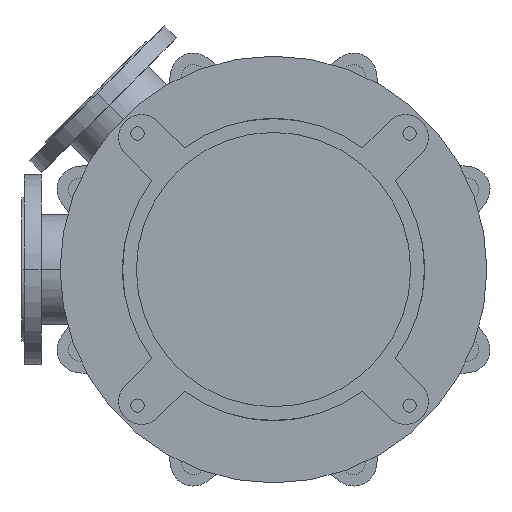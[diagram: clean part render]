
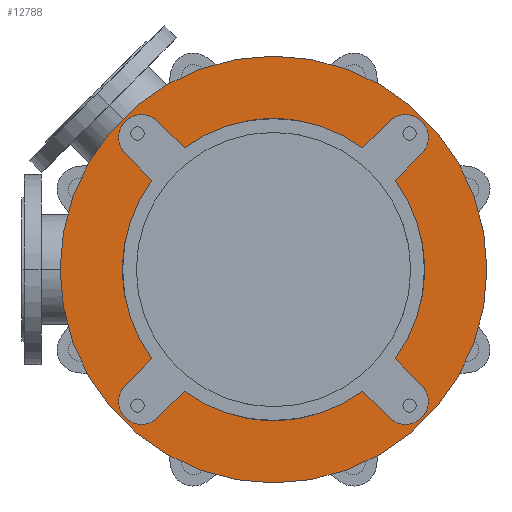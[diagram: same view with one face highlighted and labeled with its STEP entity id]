
A CAD part, front view. The second image highlights one B-rep face of the part: STEP entity #12788.
In plain terms, the highlighted planar face has unit normal (0, -1, 0).
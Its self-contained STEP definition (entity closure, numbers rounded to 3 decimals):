
#2484=CARTESIAN_POINT('',(0.,-25.,0.));
#2485=DIRECTION('',(0.,1.,0.));
#2486=DIRECTION('',(0.592,0.,-0.806));
#2487=AXIS2_PLACEMENT_3D('',#2484,#2485,#2486);
#2502=CARTESIAN_POINT('',(0.,-25.,0.));
#2503=DIRECTION('',(0.,1.,0.));
#2504=DIRECTION('',(0.806,0.,0.592));
#2505=AXIS2_PLACEMENT_3D('',#2502,#2503,#2504);
#2529=CARTESIAN_POINT('',(0.,-25.,0.));
#2530=DIRECTION('',(0.,1.,0.));
#2531=DIRECTION('',(-0.806,0.,-0.592));
#2532=AXIS2_PLACEMENT_3D('',#2529,#2530,#2531);
#2538=CARTESIAN_POINT('',(0.,-25.,0.));
#2539=DIRECTION('',(0.,1.,0.));
#2540=DIRECTION('',(-0.592,0.,0.806));
#2541=AXIS2_PLACEMENT_3D('',#2538,#2539,#2540);
#2716=CARTESIAN_POINT('',(0.,-25.,0.));
#2717=DIRECTION('',(0.,-1.,0.));
#2718=DIRECTION('',(-1.,0.,0.));
#2719=AXIS2_PLACEMENT_3D('',#2716,#2717,#2718);
#2721=CARTESIAN_POINT('',(0.,-25.,0.));
#2722=DIRECTION('',(0.,1.,0.));
#2723=DIRECTION('',(-1.,0.,0.));
#2724=AXIS2_PLACEMENT_3D('',#2721,#2722,#2723);
#2726=CARTESIAN_POINT('',(-173.241,-25.,173.241));
#2727=DIRECTION('',(0.,-1.,0.));
#2728=DIRECTION('',(0.707,0.,0.707));
#2729=AXIS2_PLACEMENT_3D('',#2726,#2727,#2728);
#2731=DIRECTION('',(0.707,0.,-0.707));
#2732=VECTOR('',#2731,49.286);
#2733=CARTESIAN_POINT('',(-194.454,-25.,152.028));
#2734=LINE('',#2733,#2732);
#2735=DIRECTION('',(-0.707,0.,-0.707));
#2736=VECTOR('',#2735,49.286);
#2737=CARTESIAN_POINT('',(-159.604,-25.,-117.178));
#2738=LINE('',#2737,#2736);
#2739=CARTESIAN_POINT('',(-173.241,-25.,-173.241));
#2740=DIRECTION('',(0.,-1.,0.));
#2741=DIRECTION('',(-0.707,0.,0.707));
#2742=AXIS2_PLACEMENT_3D('',#2739,#2740,#2741);
#2744=DIRECTION('',(0.707,0.,0.707));
#2745=VECTOR('',#2744,49.286);
#2746=CARTESIAN_POINT('',(-152.028,-25.,-194.454));
#2747=LINE('',#2746,#2745);
#2748=DIRECTION('',(0.707,0.,-0.707));
#2749=VECTOR('',#2748,49.286);
#2750=CARTESIAN_POINT('',(117.178,-25.,-159.604));
#2751=LINE('',#2750,#2749);
#2752=CARTESIAN_POINT('',(173.241,-25.,-173.241));
#2753=DIRECTION('',(0.,-1.,0.));
#2754=DIRECTION('',(-0.707,0.,-0.707));
#2755=AXIS2_PLACEMENT_3D('',#2752,#2753,#2754);
#2757=DIRECTION('',(-0.707,0.,0.707));
#2758=VECTOR('',#2757,49.286);
#2759=CARTESIAN_POINT('',(194.454,-25.,-152.028));
#2760=LINE('',#2759,#2758);
#2761=DIRECTION('',(0.707,0.,0.707));
#2762=VECTOR('',#2761,49.286);
#2763=CARTESIAN_POINT('',(159.604,-25.,117.178));
#2764=LINE('',#2763,#2762);
#2765=CARTESIAN_POINT('',(173.241,-25.,173.241));
#2766=DIRECTION('',(0.,-1.,0.));
#2767=DIRECTION('',(0.707,0.,-0.707));
#2768=AXIS2_PLACEMENT_3D('',#2765,#2766,#2767);
#2770=DIRECTION('',(-0.707,0.,-0.707));
#2771=VECTOR('',#2770,49.286);
#2772=CARTESIAN_POINT('',(152.028,-25.,194.454));
#2773=LINE('',#2772,#2771);
#2774=DIRECTION('',(-0.707,0.,0.707));
#2775=VECTOR('',#2774,49.286);
#2776=CARTESIAN_POINT('',(-117.178,-25.,159.604));
#2777=LINE('',#2776,#2775);
#8319=CARTESIAN_POINT('',(-280.,-25.,0.));
#8320=CARTESIAN_POINT('',(280.,-25.,0.));
#8321=VERTEX_POINT('',#8319);
#8322=VERTEX_POINT('',#8320);
#8343=CARTESIAN_POINT('',(-194.454,-25.,-152.028));
#8344=CARTESIAN_POINT('',(-152.028,-25.,-194.454));
#8345=VERTEX_POINT('',#8343);
#8346=VERTEX_POINT('',#8344);
#8347=CARTESIAN_POINT('',(-117.178,-25.,-159.604));
#8348=VERTEX_POINT('',#8347);
#8349=CARTESIAN_POINT('',(-159.604,-25.,-117.178));
#8350=VERTEX_POINT('',#8349);
#8359=CARTESIAN_POINT('',(152.028,-25.,-194.454));
#8360=CARTESIAN_POINT('',(194.454,-25.,-152.028));
#8361=VERTEX_POINT('',#8359);
#8362=VERTEX_POINT('',#8360);
#8363=CARTESIAN_POINT('',(159.604,-25.,-117.178));
#8364=VERTEX_POINT('',#8363);
#8365=CARTESIAN_POINT('',(117.178,-25.,-159.604));
#8366=VERTEX_POINT('',#8365);
#8375=CARTESIAN_POINT('',(194.454,-25.,152.028));
#8376=CARTESIAN_POINT('',(152.028,-25.,194.454));
#8377=VERTEX_POINT('',#8375);
#8378=VERTEX_POINT('',#8376);
#8379=CARTESIAN_POINT('',(117.178,-25.,159.604));
#8380=VERTEX_POINT('',#8379);
#8381=CARTESIAN_POINT('',(159.604,-25.,117.178));
#8382=VERTEX_POINT('',#8381);
#8391=CARTESIAN_POINT('',(-152.028,-25.,194.454));
#8392=CARTESIAN_POINT('',(-194.454,-25.,152.028));
#8393=VERTEX_POINT('',#8391);
#8394=VERTEX_POINT('',#8392);
#8395=CARTESIAN_POINT('',(-159.604,-25.,117.178));
#8396=VERTEX_POINT('',#8395);
#8397=CARTESIAN_POINT('',(-117.178,-25.,159.604));
#8398=VERTEX_POINT('',#8397);
#12748=CARTESIAN_POINT('',(0.,-25.,0.));
#12749=DIRECTION('',(0.,-1.,0.));
#12750=DIRECTION('',(-1.,0.,0.));
#12751=AXIS2_PLACEMENT_3D('',#12748,#12749,#12750);
#12752=PLANE('',#12751);
#12754=ORIENTED_EDGE('',*,*,#12753,.F.);
#12756=ORIENTED_EDGE('',*,*,#12755,.T.);
#12757=EDGE_LOOP('',(#12754,#12756));
#12758=FACE_OUTER_BOUND('',#12757,.F.);
#12760=ORIENTED_EDGE('',*,*,#12759,.T.);
#12762=ORIENTED_EDGE('',*,*,#12761,.T.);
#12763=ORIENTED_EDGE('',*,*,#12701,.F.);
#12765=ORIENTED_EDGE('',*,*,#12764,.T.);
#12767=ORIENTED_EDGE('',*,*,#12766,.T.);
#12769=ORIENTED_EDGE('',*,*,#12768,.T.);
#12770=ORIENTED_EDGE('',*,*,#12654,.F.);
#12771=ORIENTED_EDGE('',*,*,#12738,.T.);
#12773=ORIENTED_EDGE('',*,*,#12772,.T.);
#12775=ORIENTED_EDGE('',*,*,#12774,.T.);
#12776=ORIENTED_EDGE('',*,*,#12675,.F.);
#12778=ORIENTED_EDGE('',*,*,#12777,.T.);
#12780=ORIENTED_EDGE('',*,*,#12779,.T.);
#12782=ORIENTED_EDGE('',*,*,#12781,.T.);
#12783=ORIENTED_EDGE('',*,*,#12719,.F.);
#12785=ORIENTED_EDGE('',*,*,#12784,.T.);
#12786=EDGE_LOOP('',(#12760,#12762,#12763,#12765,#12767,#12769,#12770,#12771,
#12773,#12775,#12776,#12778,#12780,#12782,#12783,#12785));
#12787=FACE_BOUND('',#12786,.F.);
#12788=ADVANCED_FACE('',(#12758,#12787),#12752,.T.);
#2488=CIRCLE('',#2487,198.);
#2506=CIRCLE('',#2505,198.);
#2533=CIRCLE('',#2532,198.);
#2542=CIRCLE('',#2541,198.);
#2720=CIRCLE('',#2719,280.);
#2725=CIRCLE('',#2724,280.);
#2730=CIRCLE('',#2729,30.);
#2743=CIRCLE('',#2742,30.);
#2756=CIRCLE('',#2755,30.);
#2769=CIRCLE('',#2768,30.);
#12654=EDGE_CURVE('',#8366,#8348,#2488,.T.);
#12675=EDGE_CURVE('',#8382,#8364,#2506,.T.);
#12701=EDGE_CURVE('',#8350,#8396,#2533,.T.);
#12719=EDGE_CURVE('',#8398,#8380,#2542,.T.);
#12738=EDGE_CURVE('',#8366,#8361,#2751,.T.);
#12753=EDGE_CURVE('',#8321,#8322,#2720,.T.);
#12755=EDGE_CURVE('',#8321,#8322,#2725,.T.);
#12759=EDGE_CURVE('',#8393,#8394,#2730,.T.);
#12761=EDGE_CURVE('',#8394,#8396,#2734,.T.);
#12764=EDGE_CURVE('',#8350,#8345,#2738,.T.);
#12766=EDGE_CURVE('',#8345,#8346,#2743,.T.);
#12768=EDGE_CURVE('',#8346,#8348,#2747,.T.);
#12772=EDGE_CURVE('',#8361,#8362,#2756,.T.);
#12774=EDGE_CURVE('',#8362,#8364,#2760,.T.);
#12777=EDGE_CURVE('',#8382,#8377,#2764,.T.);
#12779=EDGE_CURVE('',#8377,#8378,#2769,.T.);
#12781=EDGE_CURVE('',#8378,#8380,#2773,.T.);
#12784=EDGE_CURVE('',#8398,#8393,#2777,.T.);
